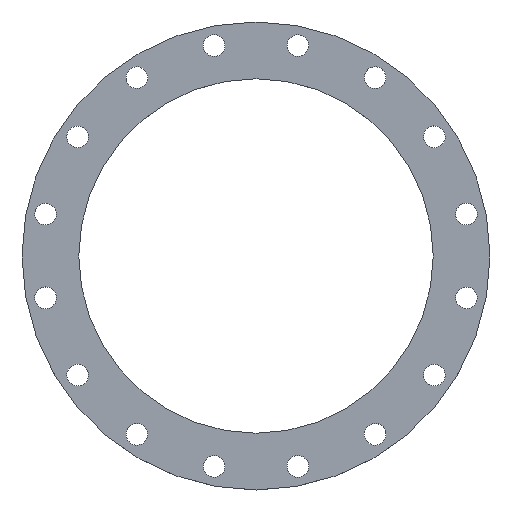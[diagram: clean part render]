
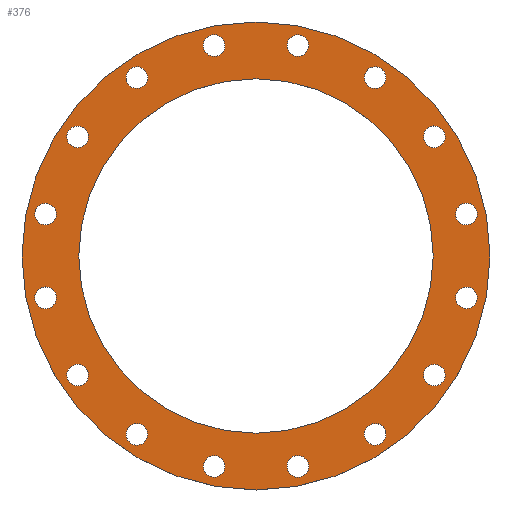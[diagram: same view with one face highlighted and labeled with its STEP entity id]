
A CAD part, top view. The second image highlights one B-rep face of the part: STEP entity #376.
In plain terms, the highlighted planar face has unit normal (0, 0, 1).
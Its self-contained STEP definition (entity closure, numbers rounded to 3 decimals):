
#14=PLANE($,#435);
#51=FACE_BOUND($,#141,.T.);
#52=FACE_BOUND($,#142,.T.);
#53=FACE_BOUND($,#143,.T.);
#54=FACE_BOUND($,#144,.T.);
#55=FACE_BOUND($,#145,.T.);
#56=FACE_BOUND($,#146,.T.);
#57=FACE_BOUND($,#147,.T.);
#58=FACE_BOUND($,#148,.T.);
#59=FACE_BOUND($,#149,.T.);
#60=FACE_BOUND($,#150,.T.);
#61=FACE_BOUND($,#151,.T.);
#62=FACE_BOUND($,#152,.T.);
#63=FACE_BOUND($,#153,.T.);
#64=FACE_BOUND($,#154,.T.);
#65=FACE_BOUND($,#155,.T.);
#66=FACE_BOUND($,#156,.T.);
#67=FACE_BOUND($,#157,.T.);
#68=FACE_BOUND($,#158,.T.);
#141=EDGE_LOOP($,(#321));
#142=EDGE_LOOP($,(#322));
#143=EDGE_LOOP($,(#323));
#144=EDGE_LOOP($,(#324));
#145=EDGE_LOOP($,(#325));
#146=EDGE_LOOP($,(#326));
#147=EDGE_LOOP($,(#327));
#148=EDGE_LOOP($,(#328));
#149=EDGE_LOOP($,(#329));
#150=EDGE_LOOP($,(#330));
#151=EDGE_LOOP($,(#331));
#152=EDGE_LOOP($,(#332));
#153=EDGE_LOOP($,(#333));
#154=EDGE_LOOP($,(#334));
#155=EDGE_LOOP($,(#335));
#156=EDGE_LOOP($,(#336));
#157=EDGE_LOOP($,(#337));
#158=EDGE_LOOP($,(#338));
#160=CIRCLE($,#382,12.5);
#162=CIRCLE($,#385,12.5);
#164=CIRCLE($,#388,12.5);
#166=CIRCLE($,#391,12.5);
#168=CIRCLE($,#394,12.5);
#170=CIRCLE($,#397,12.5);
#172=CIRCLE($,#400,12.5);
#174=CIRCLE($,#403,12.5);
#176=CIRCLE($,#406,12.5);
#178=CIRCLE($,#409,12.5);
#180=CIRCLE($,#412,12.5);
#182=CIRCLE($,#415,12.5);
#184=CIRCLE($,#418,12.5);
#186=CIRCLE($,#421,12.5);
#188=CIRCLE($,#424,12.5);
#190=CIRCLE($,#427,12.5);
#191=CIRCLE($,#429,204.5);
#193=CIRCLE($,#432,270.);
#196=VERTEX_POINT($,#554);
#198=VERTEX_POINT($,#559);
#200=VERTEX_POINT($,#564);
#202=VERTEX_POINT($,#569);
#204=VERTEX_POINT($,#574);
#206=VERTEX_POINT($,#579);
#208=VERTEX_POINT($,#584);
#210=VERTEX_POINT($,#589);
#212=VERTEX_POINT($,#594);
#214=VERTEX_POINT($,#599);
#216=VERTEX_POINT($,#604);
#218=VERTEX_POINT($,#609);
#220=VERTEX_POINT($,#614);
#222=VERTEX_POINT($,#619);
#224=VERTEX_POINT($,#624);
#226=VERTEX_POINT($,#629);
#227=VERTEX_POINT($,#632);
#229=VERTEX_POINT($,#637);
#232=EDGE_CURVE($,#196,#196,#160,.T.);
#234=EDGE_CURVE($,#198,#198,#162,.T.);
#236=EDGE_CURVE($,#200,#200,#164,.T.);
#238=EDGE_CURVE($,#202,#202,#166,.T.);
#240=EDGE_CURVE($,#204,#204,#168,.T.);
#242=EDGE_CURVE($,#206,#206,#170,.T.);
#244=EDGE_CURVE($,#208,#208,#172,.T.);
#246=EDGE_CURVE($,#210,#210,#174,.T.);
#248=EDGE_CURVE($,#212,#212,#176,.T.);
#250=EDGE_CURVE($,#214,#214,#178,.T.);
#252=EDGE_CURVE($,#216,#216,#180,.T.);
#254=EDGE_CURVE($,#218,#218,#182,.T.);
#256=EDGE_CURVE($,#220,#220,#184,.T.);
#258=EDGE_CURVE($,#222,#222,#186,.T.);
#260=EDGE_CURVE($,#224,#224,#188,.T.);
#262=EDGE_CURVE($,#226,#226,#190,.T.);
#263=EDGE_CURVE($,#227,#227,#191,.T.);
#265=EDGE_CURVE($,#229,#229,#193,.T.);
#321=ORIENTED_EDGE($,*,*,#232,.T.);
#322=ORIENTED_EDGE($,*,*,#234,.T.);
#323=ORIENTED_EDGE($,*,*,#236,.T.);
#324=ORIENTED_EDGE($,*,*,#238,.T.);
#325=ORIENTED_EDGE($,*,*,#240,.T.);
#326=ORIENTED_EDGE($,*,*,#242,.T.);
#327=ORIENTED_EDGE($,*,*,#244,.T.);
#328=ORIENTED_EDGE($,*,*,#246,.T.);
#329=ORIENTED_EDGE($,*,*,#248,.T.);
#330=ORIENTED_EDGE($,*,*,#250,.T.);
#331=ORIENTED_EDGE($,*,*,#252,.T.);
#332=ORIENTED_EDGE($,*,*,#254,.T.);
#333=ORIENTED_EDGE($,*,*,#256,.T.);
#334=ORIENTED_EDGE($,*,*,#258,.T.);
#335=ORIENTED_EDGE($,*,*,#260,.T.);
#336=ORIENTED_EDGE($,*,*,#262,.T.);
#337=ORIENTED_EDGE($,*,*,#263,.T.);
#338=ORIENTED_EDGE($,*,*,#265,.T.);
#376=ADVANCED_FACE($,(#51,#52,#53,#54,#55,#56,#57,#58,#59,#60,#61,#62,#63,
#64,#65,#66,#67,#68),#14,.T.);
#382=AXIS2_PLACEMENT_3D($,#555,#442,#443);
#385=AXIS2_PLACEMENT_3D($,#560,#448,#449);
#388=AXIS2_PLACEMENT_3D($,#565,#454,#455);
#391=AXIS2_PLACEMENT_3D($,#570,#460,#461);
#394=AXIS2_PLACEMENT_3D($,#575,#466,#467);
#397=AXIS2_PLACEMENT_3D($,#580,#472,#473);
#400=AXIS2_PLACEMENT_3D($,#585,#478,#479);
#403=AXIS2_PLACEMENT_3D($,#590,#484,#485);
#406=AXIS2_PLACEMENT_3D($,#595,#490,#491);
#409=AXIS2_PLACEMENT_3D($,#600,#496,#497);
#412=AXIS2_PLACEMENT_3D($,#605,#502,#503);
#415=AXIS2_PLACEMENT_3D($,#610,#508,#509);
#418=AXIS2_PLACEMENT_3D($,#615,#514,#515);
#421=AXIS2_PLACEMENT_3D($,#620,#520,#521);
#424=AXIS2_PLACEMENT_3D($,#625,#526,#527);
#427=AXIS2_PLACEMENT_3D($,#630,#532,#533);
#429=AXIS2_PLACEMENT_3D($,#633,#536,#537);
#432=AXIS2_PLACEMENT_3D($,#638,#542,#543);
#435=AXIS2_PLACEMENT_3D($,#642,#548,#549);
#442=DIRECTION('center_axis',(0.,0.,-1.));
#443=DIRECTION('ref_axis',(-0.924,0.383,0.));
#448=DIRECTION('center_axis',(0.,0.,-1.));
#449=DIRECTION('ref_axis',(-0.707,0.707,0.));
#454=DIRECTION('center_axis',(0.,0.,-1.));
#455=DIRECTION('ref_axis',(-0.383,0.924,0.));
#460=DIRECTION('center_axis',(0.,0.,-1.));
#461=DIRECTION('ref_axis',(0.,1.,0.));
#466=DIRECTION('center_axis',(0.,0.,-1.));
#467=DIRECTION('ref_axis',(0.383,0.924,0.));
#472=DIRECTION('center_axis',(0.,0.,-1.));
#473=DIRECTION('ref_axis',(0.707,0.707,0.));
#478=DIRECTION('center_axis',(0.,0.,-1.));
#479=DIRECTION('ref_axis',(0.924,0.383,0.));
#484=DIRECTION('center_axis',(0.,0.,-1.));
#485=DIRECTION('ref_axis',(1.,0.,0.));
#490=DIRECTION('center_axis',(0.,0.,-1.));
#491=DIRECTION('ref_axis',(0.924,-0.383,0.));
#496=DIRECTION('center_axis',(0.,0.,-1.));
#497=DIRECTION('ref_axis',(0.707,-0.707,0.));
#502=DIRECTION('center_axis',(0.,0.,-1.));
#503=DIRECTION('ref_axis',(0.383,-0.924,0.));
#508=DIRECTION('center_axis',(0.,0.,-1.));
#509=DIRECTION('ref_axis',(0.,-1.,0.));
#514=DIRECTION('center_axis',(0.,0.,-1.));
#515=DIRECTION('ref_axis',(-0.383,-0.924,0.));
#520=DIRECTION('center_axis',(0.,0.,-1.));
#521=DIRECTION('ref_axis',(-0.707,-0.707,0.));
#526=DIRECTION('center_axis',(0.,0.,-1.));
#527=DIRECTION('ref_axis',(-0.924,-0.383,0.));
#532=DIRECTION('center_axis',(0.,0.,-1.));
#533=DIRECTION('ref_axis',(-1.,0.,0.));
#536=DIRECTION('center_axis',(0.,0.,-1.));
#537=DIRECTION('ref_axis',(-1.,0.,0.));
#542=DIRECTION('center_axis',(0.,0.,1.));
#543=DIRECTION('ref_axis',(-1.,0.,0.));
#548=DIRECTION('center_axis',(0.,0.,1.));
#549=DIRECTION('ref_axis',(1.,0.,0.));
#554=CARTESIAN_POINT('',(59.833,237.961,24.));
#555=CARTESIAN_POINT('Origin',(48.285,242.744,24.));
#559=CARTESIAN_POINT('',(146.342,196.95,24.));
#560=CARTESIAN_POINT('Origin',(137.504,205.789,24.));
#564=CARTESIAN_POINT('',(210.572,125.955,24.));
#565=CARTESIAN_POINT('Origin',(205.789,137.504,24.));
#569=CARTESIAN_POINT('',(242.744,35.785,24.));
#570=CARTESIAN_POINT('Origin',(242.744,48.285,24.));
#574=CARTESIAN_POINT('',(237.961,-59.833,24.));
#575=CARTESIAN_POINT('Origin',(242.744,-48.285,24.));
#579=CARTESIAN_POINT('',(196.95,-146.342,24.));
#580=CARTESIAN_POINT('Origin',(205.789,-137.504,24.));
#584=CARTESIAN_POINT('',(125.955,-210.572,24.));
#585=CARTESIAN_POINT('Origin',(137.504,-205.789,24.));
#589=CARTESIAN_POINT('',(35.785,-242.744,24.));
#590=CARTESIAN_POINT('Origin',(48.285,-242.744,24.));
#594=CARTESIAN_POINT('',(-59.833,-237.961,24.));
#595=CARTESIAN_POINT('Origin',(-48.285,-242.744,24.));
#599=CARTESIAN_POINT('',(-146.342,-196.95,24.));
#600=CARTESIAN_POINT('Origin',(-137.504,-205.789,24.));
#604=CARTESIAN_POINT('',(-210.572,-125.955,24.));
#605=CARTESIAN_POINT('Origin',(-205.789,-137.504,24.));
#609=CARTESIAN_POINT('',(-242.744,-35.785,24.));
#610=CARTESIAN_POINT('Origin',(-242.744,-48.285,24.));
#614=CARTESIAN_POINT('',(-237.961,59.833,24.));
#615=CARTESIAN_POINT('Origin',(-242.744,48.285,24.));
#619=CARTESIAN_POINT('',(-196.95,146.342,24.));
#620=CARTESIAN_POINT('Origin',(-205.789,137.504,24.));
#624=CARTESIAN_POINT('',(-125.955,210.572,24.));
#625=CARTESIAN_POINT('Origin',(-137.504,205.789,24.));
#629=CARTESIAN_POINT('',(-35.785,242.744,24.));
#630=CARTESIAN_POINT('Origin',(-48.285,242.744,24.));
#632=CARTESIAN_POINT('',(204.5,0.,24.));
#633=CARTESIAN_POINT('Origin',(0.,0.,24.));
#637=CARTESIAN_POINT('',(270.,0.,24.));
#638=CARTESIAN_POINT('Origin',(0.,0.,24.));
#642=CARTESIAN_POINT('Origin',(0.,0.,
24.));
